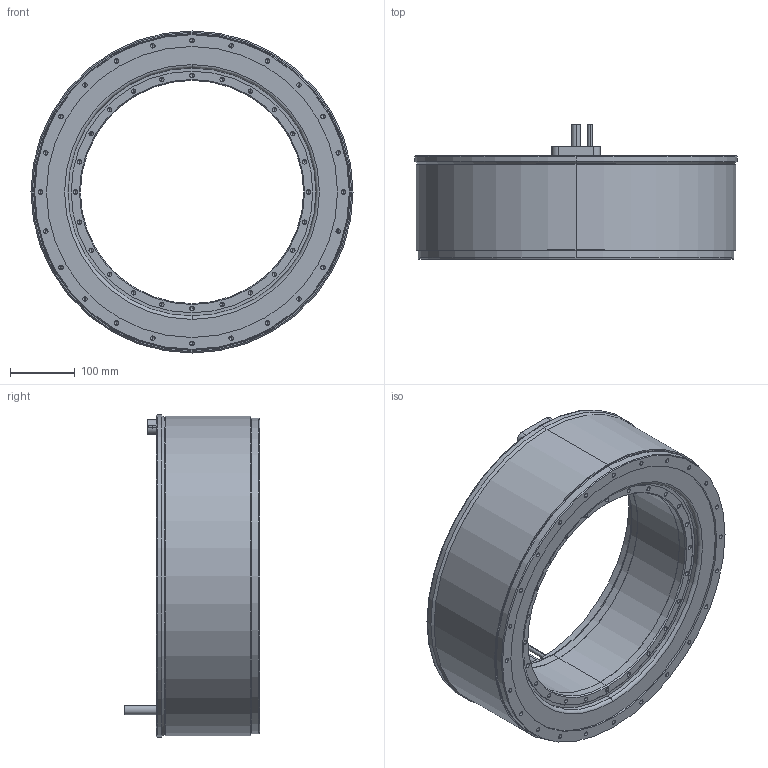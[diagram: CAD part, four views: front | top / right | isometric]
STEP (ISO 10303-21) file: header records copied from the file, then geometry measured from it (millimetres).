
FILE_DESCRIPTION (( 'STEP AP203' ), '1' );
FILE_NAME ('TM-2-DC-SB0(J0).STEP', '2023-06-06T03:03:31', ( '' ), ( '' ), 'SwSTEP 2.0', 'SolidWorks 2015', '' );
FILE_SCHEMA (( 'CONFIG_CONTROL_DESIGN' ));
Length unit declared in the file: millimetre
Products named in the file (3): TM-2-DC-SB0(J0)_Stator; TM-2-DC-SB0(J0); TM-2-DC(J0)_Rotor
Assembly tree (2 placements, depth 2):
  TM-2-DC-SB0(J0)
    TM-2-DC-SB0(J0)_Stator
    TM-2-DC(J0)_Rotor
Bounding box: 498 x 209 x 498 mm (x, y, z)
Volume: 14485526.7 mm3; surface area: 966297.7 mm2
Topology: 2 solids, 2 shells, 523 faces, 1266 edges, 670 vertices
Faces by surface type: cylinder 248, cone 216, plane 51, torus 8
Entity records: 14111 total; most frequent: DIRECTION 2660, CARTESIAN_POINT 2268, ORIENTED_EDGE 2140, EDGE_CURVE 1070, AXIS2_PLACEMENT_3D 1062, VERTEX_POINT 670, EDGE_LOOP 646, LINE 536
